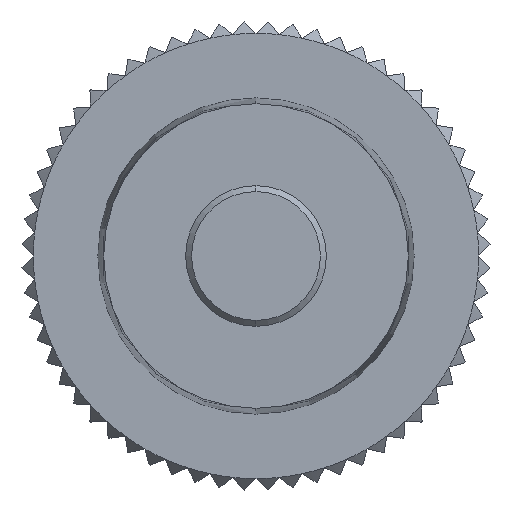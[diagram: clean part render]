
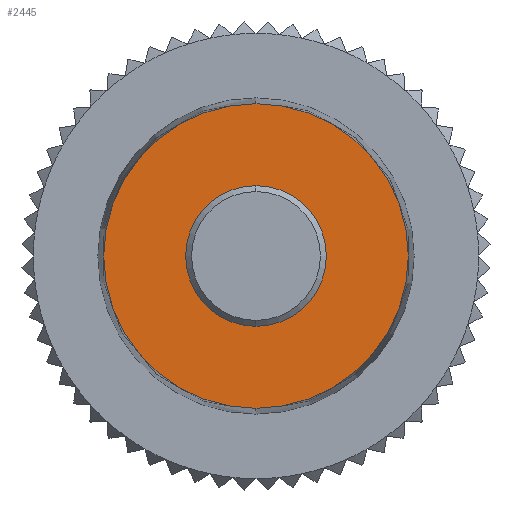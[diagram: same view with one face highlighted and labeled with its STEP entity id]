
A CAD part, front view. The second image highlights one B-rep face of the part: STEP entity #2445.
In plain terms, the highlighted planar face has unit normal (0, -1, 0).
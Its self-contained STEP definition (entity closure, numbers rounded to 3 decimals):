
#2445 = ADVANCED_FACE ( 'NONE', ( #6796, #6798 ), #6851, .T. ) ;
#2446 = EDGE_LOOP ( 'NONE', ( #2447, #2449 ) ) ;
#2447 = ORIENTED_EDGE ( 'NONE', *, *, #2448, .F. ) ;
#2448 = EDGE_CURVE ( 'NONE', #8525, #8573, #6842, .T. ) ;
#2449 = ORIENTED_EDGE ( 'NONE', *, *, #8612, .F. ) ;
#2450 = EDGE_LOOP ( 'NONE', ( #2451, #2453 ) ) ;
#2451 = ORIENTED_EDGE ( 'NONE', *, *, #2452, .T. ) ;
#2452 = EDGE_CURVE ( 'NONE', #8589, #8526, #6838, .T. ) ;
#2453 = ORIENTED_EDGE ( 'NONE', *, *, #8534, .T. ) ;
#6796 = FACE_BOUND ( 'NONE', #2446, .T. ) ;
#6798 = FACE_OUTER_BOUND ( 'NONE', #2450, .T. ) ;
#6834 = DIRECTION ( 'NONE',  ( 0., 0., -1. ) ) ;
#6835 = DIRECTION ( 'NONE',  ( 0., -1., 0. ) ) ;
#6836 = CARTESIAN_POINT ( 'NONE',  ( 0., 0., 0. ) ) ;
#6837 = AXIS2_PLACEMENT_3D ( 'NONE', #6836, #6835, #6834 ) ;
#6838 = CIRCLE ( 'NONE', #6837, 6.5 ) ;
#6839 = DIRECTION ( 'NONE',  ( 0., 0., -1. ) ) ;
#6840 = DIRECTION ( 'NONE',  ( 0., -1., 0. ) ) ;
#6841 = AXIS2_PLACEMENT_3D ( 'NONE', #6847, #6840, #6839 ) ;
#6842 = CIRCLE ( 'NONE', #6841, 3. ) ;
#6843 = DIRECTION ( 'NONE',  ( 0., 0., -1. ) ) ;
#6844 = DIRECTION ( 'NONE',  ( 0., -1., 0. ) ) ;
#6845 = CARTESIAN_POINT ( 'NONE',  ( 0., 0., 0. ) ) ;
#6846 = AXIS2_PLACEMENT_3D ( 'NONE', #6845, #6844, #6843 ) ;
#6847 = CARTESIAN_POINT ( 'NONE',  ( 0., 0., 0. ) ) ;
#6851 = PLANE ( 'NONE',  #6846 ) ;
#7641 = CARTESIAN_POINT ( 'NONE',  ( 0., 0., -6.5 ) ) ;
#7642 = CARTESIAN_POINT ( 'NONE',  ( 0., 0., -3. ) ) ;
#7689 = DIRECTION ( 'NONE',  ( 0., 0., -1. ) ) ;
#7690 = DIRECTION ( 'NONE',  ( 0., -1., 0. ) ) ;
#7691 = CARTESIAN_POINT ( 'NONE',  ( 0., 0., 0. ) ) ;
#7692 = AXIS2_PLACEMENT_3D ( 'NONE', #7691, #7690, #7689 ) ;
#7693 = CIRCLE ( 'NONE', #7692, 6.5 ) ;
#7766 = CARTESIAN_POINT ( 'NONE',  ( 0., 0., 3. ) ) ;
#7806 = CARTESIAN_POINT ( 'NONE',  ( 0., 0., 6.5 ) ) ;
#7815 = DIRECTION ( 'NONE',  ( 0., 0., -1. ) ) ;
#7816 = DIRECTION ( 'NONE',  ( 0., -1., 0. ) ) ;
#7817 = CARTESIAN_POINT ( 'NONE',  ( 0., 0., 0. ) ) ;
#7818 = AXIS2_PLACEMENT_3D ( 'NONE', #7817, #7816, #7815 ) ;
#7819 = CIRCLE ( 'NONE', #7818, 3. ) ;
#8525 = VERTEX_POINT ( 'NONE', #7642 ) ;
#8526 = VERTEX_POINT ( 'NONE', #7641 ) ;
#8534 = EDGE_CURVE ( 'NONE', #8526, #8589, #7693, .T. ) ;
#8573 = VERTEX_POINT ( 'NONE', #7766 ) ;
#8589 = VERTEX_POINT ( 'NONE', #7806 ) ;
#8612 = EDGE_CURVE ( 'NONE', #8573, #8525, #7819, .T. ) ;
